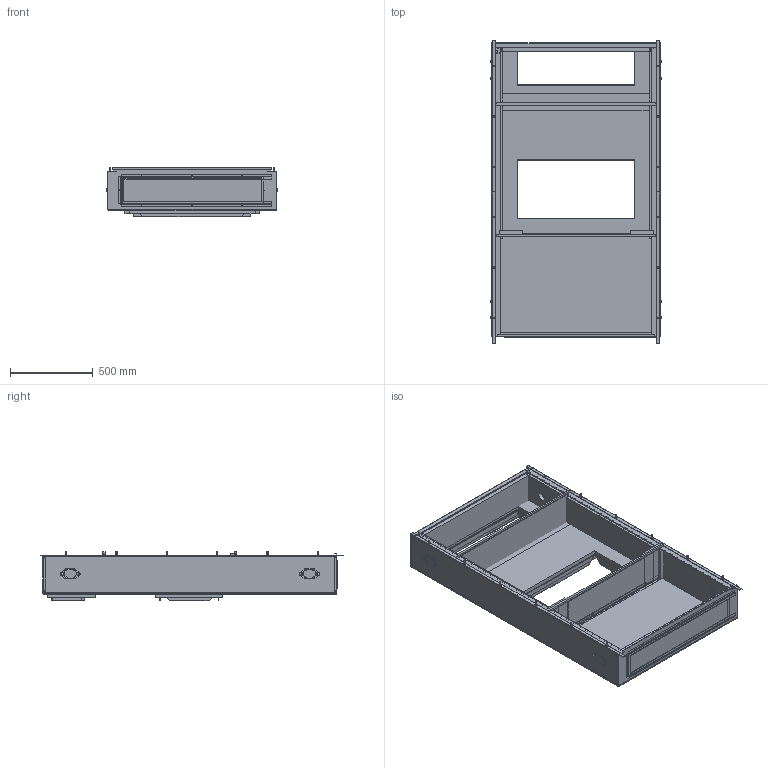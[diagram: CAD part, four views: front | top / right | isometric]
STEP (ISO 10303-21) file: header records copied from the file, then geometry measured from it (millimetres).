
FILE_DESCRIPTION (( 'STEP AP214' ), '1' );
FILE_NAME ('TCURBF2430.STEP', '2017-06-14T19:29:28', ( 'BMC' ), ( 'Bard Manufacturing Co., Inc.' ), 'SwSTEP 2.0', 'SolidWorks 2017', '' );
FILE_SCHEMA (( 'AUTOMOTIVE_DESIGN' ));
Length unit declared in the file: inch
Products named in the file (1): TCURBF2430
Bounding box: 1034.91 x 1828.8 x 298.3 mm (x, y, z)
Volume: 51692714.3 mm3; surface area: 15265275.7 mm2
Topology: 86 solids, 86 shells, 3661 faces, 8838 edges, 5141 vertices
Faces by surface type: plane 1257, cylinder 908, cone 764, bspline 545, torus 171, sphere 16
Entity records: 188489 total; most frequent: CARTESIAN_POINT 57802, ORIENTED_EDGE 17148, DIRECTION 16680, EDGE_CURVE 8574, AXIS2_PLACEMENT_3D 6250, VERTEX_POINT 5141, EDGE_LOOP 4269, VECTOR 4180
